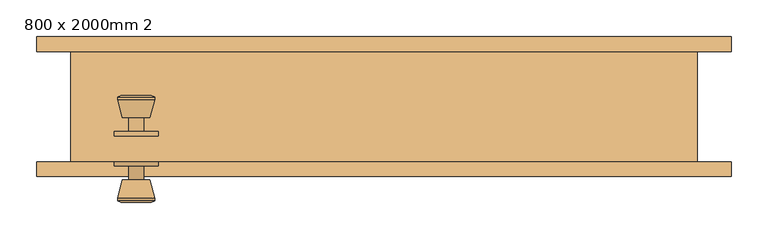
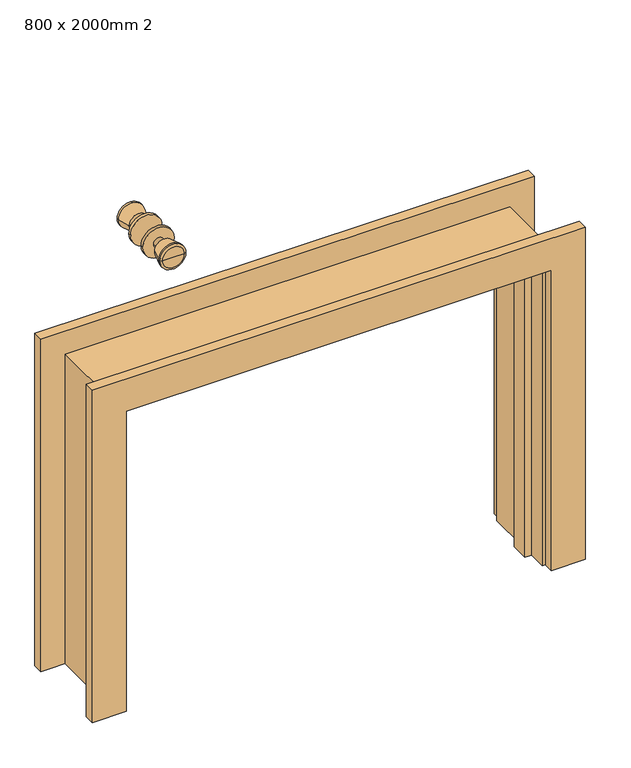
"""IFC4 building model written with IfcOpenShell, lengths in millimetres: door geometry, M_Dveře, vnitřní, jednokřídlé, dvě části, panel, dřevo : 800 x 2000mm 2."""

from ifc_helpers import new_model, si_unit, point, frame, frame_2d, origin, place, context, project, spatial, polyline, circle_curve, trimmed, segment, composite_curve, outline, extrude, faceted_brep, source, transform, mapped, element, save
from ifc_brep_helpers import plane_surface, cylinder_surface, revolved_surface, advanced_brep


def door_800_x_2000mm_2_3f67a98c(model_context):
    return source(origin(), model_context, "Body", "SolidModel", [
        advanced_brep(
        [(-336.5, -30.825, 914.4), (-346.5, -30.825, 914.4), (-326.5, -30.825, 914.4), (-316.0241324, 18.175, 914.4), (-356.9758676, 18.175, 914.4), (-336.5, 18.175, 914.4), (-311.5, 16.3471319, 914.4), (-361.5, 16.3471319, 914.4), (-311.5, 12.8834537, 914.4), (-361.5, 12.8834537, 914.4), (-317.863764, -11.825, 914.4), (-355.136236, -11.825, 914.4), (-326.5, -11.825, 914.4), (-346.5, -11.825, 914.4)],
        [
            (0, 1),
            (1, 2, circle_curve(frame((-336.5, -30.825, 914.4), z_axis=(0.0, -1.0, 0.0), x_axis=(-1.0, 0.0, 0.0)), 10.0)),
            (2, 0),
            (2, 1, circle_curve(frame((-336.5, -30.825, 914.4), z_axis=(0.0, -1.0, 0.0), x_axis=(-1.0, 0.0, 0.0)), 10.0)),
            (3, 4, circle_curve(frame((-336.5, 18.175, 914.4), z_axis=(0.0, 1.0, 0.0), x_axis=(-1.0, 0.0, 0.0)), 20.4758676)),
            (4, 5),
            (5, 3),
            (4, 3, circle_curve(frame((-336.5, 18.175, 914.4), z_axis=(0.0, 1.0, 0.0), x_axis=(-1.0, 0.0, 0.0)), 20.4758676)),
            (6, 7, circle_curve(frame((-336.5, 16.3471319, 914.4), z_axis=(0.0, 1.0, 0.0), x_axis=(-1.0, 0.0, 0.0)), 25.0)),
            (7, 4),
            (3, 6),
            (7, 6, circle_curve(frame((-336.5, 16.3471319, 914.4), z_axis=(0.0, 1.0, 0.0), x_axis=(-1.0, 0.0, 0.0)), 25.0)),
            (8, 9, circle_curve(frame((-336.5, 12.8834537, 914.4), z_axis=(0.0, 1.0, 0.0), x_axis=(-1.0, 0.0, 0.0)), 25.0)),
            (9, 7),
            (6, 8),
            (9, 8, circle_curve(frame((-336.5, 12.8834537, 914.4), z_axis=(0.0, 1.0, 0.0), x_axis=(-1.0, 0.0, 0.0)), 25.0)),
            (10, 11, circle_curve(frame((-336.5, -11.825, 914.4), z_axis=(0.0, 1.0, 0.0), x_axis=(-1.0, 0.0, 0.0)), 18.636236)),
            (11, 9),
            (8, 10),
            (11, 10, circle_curve(frame((-336.5, -11.825, 914.4), z_axis=(0.0, 1.0, 0.0), x_axis=(-1.0, 0.0, 0.0)), 18.636236)),
            (12, 13, circle_curve(frame((-336.5, -11.825, 914.4), z_axis=(0.0, 1.0, 0.0), x_axis=(-1.0, 0.0, 0.0)), 10.0)),
            (13, 11),
            (10, 12),
            (13, 12, circle_curve(frame((-336.5, -11.825, 914.4), z_axis=(0.0, 1.0, 0.0), x_axis=(-1.0, 0.0, 0.0)), 10.0)),
            (1, 13),
            (12, 2),
        ],
        [
            plane_surface(frame((-336.5, -30.825, 914.4), z_axis=(0.0, -1.0, 0.0), x_axis=(-1.0, 0.0, 0.0))),
            plane_surface(frame((-336.5, 18.175, 914.4), z_axis=(0.0, 1.0, 0.0), x_axis=(-1.0, 0.0, 0.0))),
            revolved_surface(polyline([(-356.9758676, 18.175, 914.4), (-361.5, 16.3471319, 914.4)]), (-336.5, -30.825, 914.4), (0.0, -1.0, 0.0)),
            cylinder_surface(frame((-336.5, -30.825, 914.4), z_axis=(0.0, -1.0, 0.0), x_axis=(-1.0, 0.0, 0.0)), 25.0),
            revolved_surface(polyline([(-361.5, 12.8834537, 914.4), (-355.136236, -11.825, 914.4)]), (-336.5, -30.825, 914.4), (0.0, -1.0, 0.0)),
            plane_surface(frame((-336.5, -11.825, 914.4), z_axis=(0.0, -1.0, 0.0), x_axis=(-1.0, 0.0, 0.0))),
            cylinder_surface(frame((-336.5, -30.825, 914.4), z_axis=(0.0, -1.0, 0.0), x_axis=(-1.0, 0.0, 0.0)), 10.0),
        ],
        [
            (0, [[1, 2, 3]]),
            (0, [[-3, 4, -1]]),
            (1, [[5, 6, 7]]),
            (1, [[8, -7, -6]]),
            (2, [[9, 10, -5, 11]]),
            (2, [[12, -11, -8, -10]]),
            (3, [[13, 14, -9, 15]]),
            (3, [[16, -15, -12, -14]]),
            (4, [[17, 18, -13, 19]]),
            (4, [[20, -19, -16, -18]]),
            (5, [[21, 22, -17, 23]]),
            (5, [[24, -23, -20, -22]]),
            (6, [[-2, 25, -21, 26]]),
            (6, [[-4, -26, -24, -25]]),
        ],
    ),
        extrude(outline(composite_curve([segment(trimmed(circle_curve(frame_2d((914.4, -336.5)), 30.0), [point((914.4, -366.5))], [point((914.4, -306.5))], False, "CARTESIAN"), True, "CONTINUOUS"), segment(trimmed(circle_curve(frame_2d((914.4, -336.5)), 30.0), [point((914.4, -306.5))], [point((914.4, -366.5))], False, "CARTESIAN"), True, "CONTINUOUS")], self_intersect=False)), frame((0.0, -36.825, 0.0), z_axis=(0.0, 1.0, 0.0), x_axis=(0.0, 0.0, 1.0)), (0.0, 0.0, 1.0), 6.0),
        advanced_brep(
        [(-336.5, -77.825, 914.4), (-326.5, -77.825, 914.4), (-346.5, -77.825, 914.4), (-316.0241324, -126.825, 914.4), (-336.5, -126.825, 914.4), (-356.9758676, -126.825, 914.4), (-311.5, -124.9971319, 914.4), (-361.5, -124.9971319, 914.4), (-311.5, -121.5334537, 914.4), (-361.5, -121.5334537, 914.4), (-317.863764, -96.825, 914.4), (-355.136236, -96.825, 914.4), (-326.5, -96.825, 914.4), (-346.5, -96.825, 914.4)],
        [
            (0, 1),
            (1, 2, circle_curve(frame((-336.5, -77.825, 914.4), z_axis=(0.0, 1.0, 0.0), x_axis=(-1.0, 0.0, 0.0)), 10.0)),
            (2, 0),
            (2, 1, circle_curve(frame((-336.5, -77.825, 914.4), z_axis=(0.0, 1.0, 0.0), x_axis=(-1.0, 0.0, 0.0)), 10.0)),
            (3, 4),
            (4, 5),
            (5, 3, circle_curve(frame((-336.5, -126.825, 914.4), z_axis=(0.0, -1.0, 0.0), x_axis=(-1.0, 0.0, 0.0)), 20.4758676)),
            (3, 5, circle_curve(frame((-336.5, -126.825, 914.4), z_axis=(0.0, -1.0, 0.0), x_axis=(-1.0, 0.0, 0.0)), 20.4758676)),
            (6, 3),
            (5, 7),
            (7, 6, circle_curve(frame((-336.5, -124.9971319, 914.4), z_axis=(0.0, -1.0, 0.0), x_axis=(-1.0, 0.0, 0.0)), 25.0)),
            (6, 7, circle_curve(frame((-336.5, -124.9971319, 914.4), z_axis=(0.0, -1.0, 0.0), x_axis=(-1.0, 0.0, 0.0)), 25.0)),
            (8, 6),
            (7, 9),
            (9, 8, circle_curve(frame((-336.5, -121.5334537, 914.4), z_axis=(0.0, -1.0, 0.0), x_axis=(-1.0, 0.0, 0.0)), 25.0)),
            (8, 9, circle_curve(frame((-336.5, -121.5334537, 914.4), z_axis=(0.0, -1.0, 0.0), x_axis=(-1.0, 0.0, 0.0)), 25.0)),
            (10, 8),
            (9, 11),
            (11, 10, circle_curve(frame((-336.5, -96.825, 914.4), z_axis=(0.0, -1.0, 0.0), x_axis=(-1.0, 0.0, 0.0)), 18.636236)),
            (10, 11, circle_curve(frame((-336.5, -96.825, 914.4), z_axis=(0.0, -1.0, 0.0), x_axis=(-1.0, 0.0, 0.0)), 18.636236)),
            (12, 10),
            (11, 13),
            (13, 12, circle_curve(frame((-336.5, -96.825, 914.4), z_axis=(0.0, -1.0, 0.0), x_axis=(-1.0, 0.0, 0.0)), 10.0)),
            (12, 13, circle_curve(frame((-336.5, -96.825, 914.4), z_axis=(0.0, -1.0, 0.0), x_axis=(-1.0, 0.0, 0.0)), 10.0)),
            (1, 12),
            (13, 2),
        ],
        [
            plane_surface(frame((-336.5, -77.825, 914.4), z_axis=(0.0, 1.0, 0.0), x_axis=(-1.0, 0.0, 0.0))),
            plane_surface(frame((-336.5, -126.825, 914.4), z_axis=(0.0, -1.0, 0.0), x_axis=(-1.0, 0.0, 0.0))),
            revolved_surface(polyline([(-356.9758676, -126.825, 914.4), (-361.5, -124.9971319, 914.4)]), (-336.5, -77.825, 914.4), (0.0, 1.0, 0.0)),
            cylinder_surface(frame((-336.5, -77.825, 914.4), z_axis=(0.0, 1.0, 0.0), x_axis=(-1.0, 0.0, 0.0)), 25.0),
            revolved_surface(polyline([(-361.5, -121.5334537, 914.4), (-355.136236, -96.825, 914.4)]), (-336.5, -77.825, 914.4), (0.0, 1.0, 0.0)),
            plane_surface(frame((-336.5, -96.825, 914.4), z_axis=(0.0, 1.0, 0.0), x_axis=(-1.0, 0.0, 0.0))),
            cylinder_surface(frame((-336.5, -77.825, 914.4), z_axis=(0.0, 1.0, 0.0), x_axis=(-1.0, 0.0, 0.0)), 10.0),
        ],
        [
            (0, [[1, 2, 3]]),
            (0, [[-3, 4, -1]]),
            (1, [[5, 6, 7]]),
            (1, [[-6, -5, 8]]),
            (2, [[9, -7, 10, 11]]),
            (2, [[-10, -8, -9, 12]]),
            (3, [[13, -11, 14, 15]]),
            (3, [[-14, -12, -13, 16]]),
            (4, [[17, -15, 18, 19]]),
            (4, [[-18, -16, -17, 20]]),
            (5, [[21, -19, 22, 23]]),
            (5, [[-22, -20, -21, 24]]),
            (6, [[25, -23, 26, -2]]),
            (6, [[-26, -24, -25, -4]]),
        ],
    ),
        extrude(outline(composite_curve([segment(trimmed(circle_curve(frame_2d((914.4, -336.5)), 30.0), [point((914.4, -366.5))], [point((914.4, -306.5))], False, "CARTESIAN"), True, "CONTINUOUS"), segment(trimmed(circle_curve(frame_2d((914.4, -336.5)), 30.0), [point((914.4, -306.5))], [point((914.4, -366.5))], False, "CARTESIAN"), True, "CONTINUOUS")], self_intersect=False)), frame((0.0, -77.825, 0.0), z_axis=(0.0, 1.0, 0.0), x_axis=(0.0, 0.0, 1.0)), (0.0, 0.0, 1.0), 6.0),
        faceted_brep([(425.0, -71.825, 0.0), (400.0, -71.825, 0.0), (400.0, -36.825, 0.0), (387.3, -36.825, 0.0), (387.3, -1.9, 0.0), (400.0, -1.9, 0.0), (400.0, 78.175, 0.0), (425.0, 78.175, 0.0), (425.0, 78.175, 625.0), (425.0, -71.825, 625.0), (400.0, 78.175, 600.0), (-400.0, 78.175, 600.0), (-400.0, 78.175, 0.0), (-425.0, 78.175, 0.0), (-425.0, 78.175, 625.0), (400.0, -1.9, 600.0), (387.3, -1.9, 587.3), (-387.3, -1.9, 587.3), (-387.3, -1.9, 0.0), (-400.0, -1.9, 0.0), (-400.0, -1.9, 600.0), (387.3, -36.825, 587.3), (400.0, -36.825, 600.0), (-400.0, -36.825, 600.0), (-400.0, -36.825, 0.0), (-387.3, -36.825, 0.0), (-387.3, -36.825, 587.3), (400.0, -71.825, 600.0), (-425.0, -71.825, 625.0), (-425.0, -71.825, 0.0), (-400.0, -71.825, 0.0), (-400.0, -71.825, 600.0)], [[[0, 1, 2, 3, 4, 5, 6, 7]], [[7, 8, 9, 0]], [[6, 10, 11, 12, 13, 14, 8, 7]], [[5, 15, 10, 6]], [[4, 16, 17, 18, 19, 20, 15, 5]], [[3, 21, 16, 4]], [[2, 22, 23, 24, 25, 26, 21, 3]], [[1, 27, 22, 2]], [[0, 9, 28, 29, 30, 31, 27, 1]], [[8, 14, 28, 9]], [[15, 20, 11, 10]], [[21, 26, 17, 16]], [[27, 31, 23, 22]], [[29, 13, 12, 19, 18, 25, 24, 30]], [[14, 13, 29, 28]], [[20, 19, 12, 11]], [[26, 25, 18, 17]], [[31, 30, 24, 23]]]),
        extrude(outline(polyline([(0.0, 471.35), (671.35, 471.35), (671.35, -471.35), (0.0, -471.35), (0.0, -406.35), (606.35, -406.35), (606.35, 406.35), (0.0, 406.35), (0.0, 471.35)])), frame((0.0, -91.825, 0.0), z_axis=(0.0, 1.0, 0.0), x_axis=(0.0, 0.0, 1.0)), (0.0, 0.0, 1.0), 20.0),
        extrude(outline(polyline([(0.0, 471.35), (671.35, 471.35), (671.35, -471.35), (0.0, -471.35), (0.0, -406.35), (606.35, -406.35), (606.35, 406.35), (0.0, 406.35), (0.0, 471.35)])), frame((0.0, 78.175, 0.0), z_axis=(0.0, 1.0, 0.0), x_axis=(0.0, 0.0, 1.0)), (0.0, 0.0, 1.0), 20.0),
    ])


if __name__ == "__main__":
    model = new_model("IFC4")
    model_context = context("Model", 3, world=origin())
    ifc_project = project(units=[si_unit("LENGTHUNIT", "METRE", prefix="MILLI")], contexts=[model_context])
    site = spatial("IfcSite", under=ifc_project)
    building = spatial("IfcBuilding", under=site)
    placement = place(None, origin())
    door_800_x_2000mm_2_shape = door_800_x_2000mm_2_3f67a98c(model_context)
    element("IfcDoor", 1, ObjectType="M_Dveře, vnitřní, jednokřídlé, dvě části, panel, dřevo : 800 x 2000mm 2", at=placement, inside=building, context=model_context, shape_type="MappedRepresentation", body=[
        mapped(door_800_x_2000mm_2_shape, transform((0.0, 0.0, 0.0), x_axis=(1.0, 0.0, 0.0), y_axis=(0.0, 1.0, 0.0), z_axis=(0.0, 0.0, 1.0))),
    ])
    save(model, "model.ifc")
